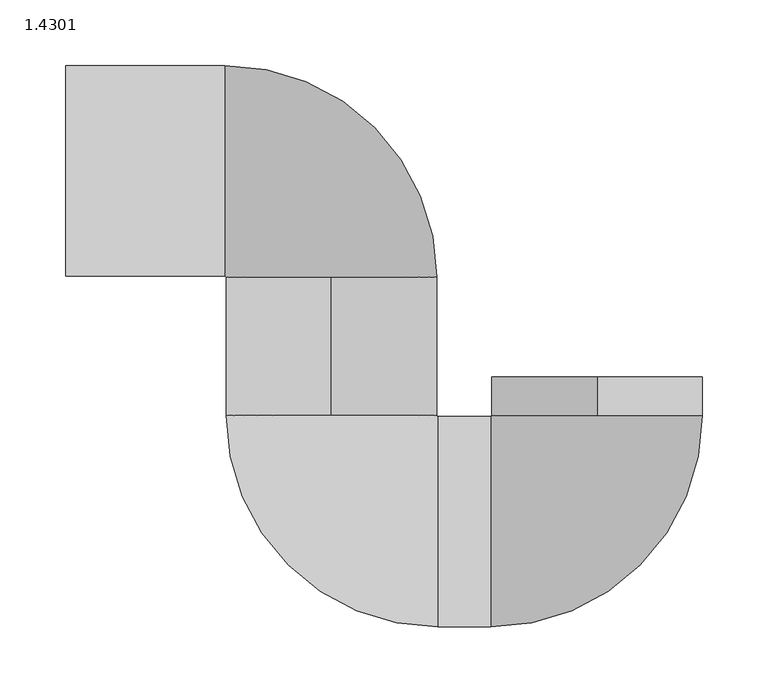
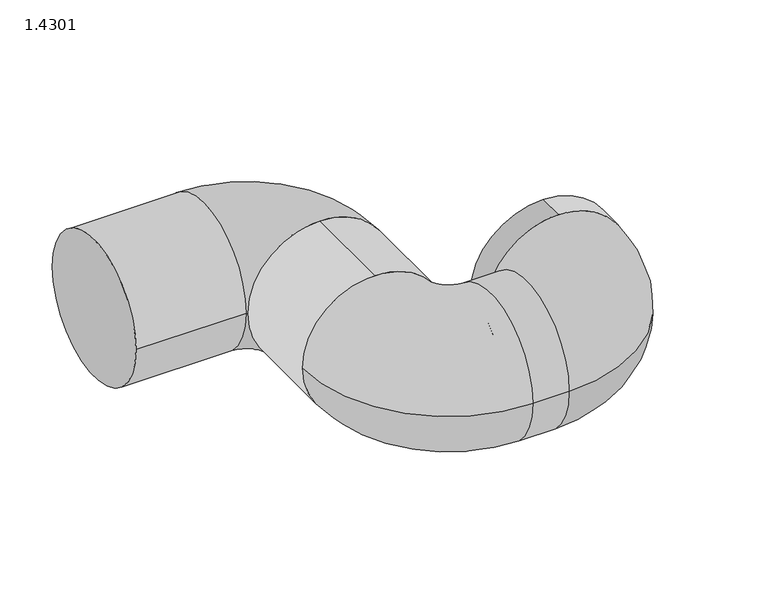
"""IFC4 building model written with IfcOpenShell, lengths in millimetres: pipe fitting geometry, PIF_ST_UN_ACO pipe p-trap_ACO : 1.4301."""

from ifc_helpers import new_model, si_unit, point, frame, origin, place, context, project, spatial, circle_curve, ellipse_curve, trimmed, source, transform, mapped, element, save
from ifc_brep_helpers import plane_surface, cylinder_surface, revolved_surface, advanced_brep


def pipe_fitting_1_4301_4e6f8dee(model_context):
    return source(origin(), model_context, "Body", "AdvancedBrep", [
        advanced_brep(
        [(-282.0, -186.0, 0.0), (-121.0, -347.0, 0.0), (-121.0, -267.0, 80.0), (-121.0, -187.0, 0.0), (-122.0, -186.0, 0.0), (-202.0, -186.0, 80.0), (-202.0, -186.0, -80.0), (-121.0, -267.0, -80.0), (-81.0, -347.0, 0.0), (-81.0, -187.0, 0.0), (-404.0, -80.0, 0.0), (-404.0, 80.0, 0.0), (-283.0, 80.0, 0.0), (-283.0, -80.0, 0.0), (-122.0, -81.0, 0.0), (-282.0, -81.0, 0.0), (-202.0, -81.0, 80.0), (-202.0, -81.0, -80.0), (0.0, -157.0, -80.0), (0.0, -157.0, 80.0), (0.0, -186.0, -80.0), (-80.0, -186.0, 0.0), (0.0, -186.0, 80.0), (80.0, -186.0, 0.0)],
        [
            (0, 1, circle_curve(frame((-121.0, -186.0, 0.0), z_axis=(0.0, 0.0, 1.0), x_axis=(0.0, -1.0, 0.0)), 161.0)),
            (1, 2, circle_curve(frame((-121.0, -267.0, 0.0), z_axis=(-1.0, 0.0, 0.0), x_axis=(0.0, -1.0, 0.0)), 80.0)),
            (2, 3, circle_curve(frame((-121.0, -267.0, 0.0), z_axis=(-1.0, 0.0, 0.0), x_axis=(0.0, -1.0, 0.0)), 80.0)),
            (3, 4, circle_curve(frame((-121.0, -186.0, 0.0), z_axis=(0.0, 0.0, -1.0), x_axis=(0.0, -1.0, 0.0)), 1.0)),
            (4, 5, circle_curve(frame((-202.0, -186.0, 0.0), z_axis=(0.0, -1.0, 0.0), x_axis=(-1.0, 0.0, 0.0)), 80.0)),
            (5, 0, circle_curve(frame((-202.0, -186.0, 0.0), z_axis=(0.0, -1.0, 0.0), x_axis=(-1.0, 0.0, 0.0)), 80.0)),
            (0, 6, circle_curve(frame((-202.0, -186.0, 0.0), z_axis=(0.0, -1.0, 0.0), x_axis=(-1.0, 0.0, 0.0)), 80.0)),
            (6, 4, circle_curve(frame((-202.0, -186.0, 0.0), z_axis=(0.0, -1.0, 0.0), x_axis=(-1.0, 0.0, 0.0)), 80.0)),
            (3, 7, circle_curve(frame((-121.0, -267.0, 0.0), z_axis=(-1.0, 0.0, 0.0), x_axis=(0.0, -1.0, 0.0)), 80.0)),
            (7, 1, circle_curve(frame((-121.0, -267.0, 0.0), z_axis=(-1.0, 0.0, 0.0), x_axis=(0.0, -1.0, 0.0)), 80.0)),
            (8, 1),
            (3, 9),
            (9, 8, circle_curve(frame((-81.0, -267.0, 0.0), z_axis=(-1.0, 0.0, 0.0), x_axis=(0.0, 1.0, 0.0)), 80.0)),
            (8, 9, circle_curve(frame((-81.0, -267.0, 0.0), z_axis=(-1.0, 0.0, 0.0), x_axis=(0.0, 1.0, 0.0)), 80.0)),
            (10, 11, circle_curve(frame((-404.0, 0.0, 0.0), z_axis=(-1.0, 0.0, 0.0), x_axis=(0.0, 1.0, 0.0)), 80.0)),
            (11, 10, circle_curve(frame((-404.0, 0.0, 0.0), z_axis=(-1.0, 0.0, 0.0), x_axis=(0.0, 1.0, 0.0)), 80.0)),
            (11, 12),
            (12, 13, circle_curve(frame((-283.0, 0.0, 0.0), z_axis=(-1.0, 0.0, 0.0), x_axis=(0.0, 1.0, 0.0)), 80.0)),
            (13, 10),
            (13, 12, circle_curve(frame((-283.0, 0.0, 0.0), z_axis=(-1.0, 0.0, 0.0), x_axis=(0.0, 1.0, 0.0)), 80.0)),
            (14, 12, circle_curve(frame((-283.0, -81.0, 0.0), z_axis=(0.0, 0.0, 1.0), x_axis=(0.0, 1.0, 0.0)), 161.0)),
            (13, 15, circle_curve(frame((-283.0, -81.0, 0.0), z_axis=(0.0, 0.0, -1.0), x_axis=(0.0, 1.0, 0.0)), 1.0)),
            (15, 16, circle_curve(frame((-202.0, -81.0, 0.0), z_axis=(0.0, 1.0, 0.0), x_axis=(1.0, 0.0, 0.0)), 80.0)),
            (16, 14, circle_curve(frame((-202.0, -81.0, 0.0), z_axis=(0.0, 1.0, 0.0), x_axis=(1.0, 0.0, 0.0)), 80.0)),
            (14, 17, circle_curve(frame((-202.0, -81.0, 0.0), z_axis=(0.0, 1.0, 0.0), x_axis=(1.0, 0.0, 0.0)), 80.0)),
            (17, 15, circle_curve(frame((-202.0, -81.0, 0.0), z_axis=(0.0, 1.0, 0.0), x_axis=(1.0, 0.0, 0.0)), 80.0)),
            (6, 17),
            (16, 5),
            (18, 19, circle_curve(frame((0.0, -157.0, 0.0), z_axis=(0.0, 1.0, 0.0), x_axis=(0.0, 0.0, 1.0)), 80.0)),
            (19, 18, circle_curve(frame((0.0, -157.0, 0.0), z_axis=(0.0, 1.0, 0.0), x_axis=(0.0, 0.0, 1.0)), 80.0)),
            (18, 20),
            (20, 21, circle_curve(frame((0.0, -186.0, 0.0), z_axis=(0.0, 1.0, 0.0), x_axis=(0.0, 0.0, 1.0)), 80.0)),
            (21, 22, circle_curve(frame((0.0, -186.0, 0.0), z_axis=(0.0, 1.0, 0.0), x_axis=(0.0, 0.0, 1.0)), 80.0)),
            (22, 19),
            (22, 23, circle_curve(frame((0.0, -186.0, 0.0), z_axis=(0.0, 1.0, 0.0), x_axis=(0.0, 0.0, 1.0)), 80.0)),
            (23, 20, circle_curve(frame((0.0, -186.0, 0.0), z_axis=(0.0, 1.0, 0.0), x_axis=(0.0, 0.0, 1.0)), 80.0)),
            (21, 9, circle_curve(frame((-81.0, -186.0, 0.0), z_axis=(0.0, 0.0, -1.0), x_axis=(0.0, -1.0, 0.0)), 1.0)),
            (8, 23, circle_curve(frame((-81.0, -186.0, 0.0), z_axis=(0.0, 0.0, 1.0), x_axis=(0.0, -1.0, 0.0)), 161.0)),
        ],
        [
            revolved_surface(trimmed(ellipse_curve(frame((-121.0, -267.0, 0.0), z_axis=(1.0, 0.0, 0.0), x_axis=(0.0, -1.0, 0.0)), 80.0, 80.0), [point((-121.0, -187.0, 0.0))], [point((-121.0, -347.0, 0.0))], True, "CARTESIAN"), (-121.0, -186.0, 0.0), (0.0, 0.0, -1.0)),
            revolved_surface(trimmed(ellipse_curve(frame((-121.0, -267.0, 0.0), z_axis=(1.0, 0.0, 0.0), x_axis=(0.0, -1.0, 0.0)), 80.0, 80.0), [point((-121.0, -347.0, 0.0))], [point((-121.0, -187.0, 0.0))], True, "CARTESIAN"), (-121.0, -186.0, 0.0), (0.0, 0.0, -1.0)),
            cylinder_surface(frame((-121.0, -267.0, 0.0), z_axis=(1.0, 0.0, 0.0), x_axis=(0.0, 1.0, 0.0)), 80.0),
            plane_surface(frame((-404.0, 80.0, 0.0), z_axis=(-1.0, 0.0, 0.0), x_axis=(0.0, 0.0, -1.0))),
            cylinder_surface(frame((-404.0, 0.0, 0.0), z_axis=(1.0, 0.0, 0.0), x_axis=(0.0, 1.0, 0.0)), 80.0),
            revolved_surface(trimmed(ellipse_curve(frame((-283.0, 0.0, 0.0), z_axis=(-1.0, 0.0, 0.0), x_axis=(0.0, 1.0, 0.0)), 80.0, 80.0), [point((-283.0, -80.0, 0.0))], [point((-283.0, 80.0, 0.0))], True, "CARTESIAN"), (-283.0, -81.0, 0.0), (0.0, 0.0, -1.0)),
            revolved_surface(trimmed(ellipse_curve(frame((-283.0, 0.0, 0.0), z_axis=(-1.0, 0.0, 0.0), x_axis=(0.0, 1.0, 0.0)), 80.0, 80.0), [point((-283.0, 80.0, 0.0))], [point((-283.0, -80.0, 0.0))], True, "CARTESIAN"), (-283.0, -81.0, 0.0), (0.0, 0.0, -1.0)),
            cylinder_surface(frame((-202.0, -81.0, 0.0), z_axis=(0.0, -1.0, 0.0), x_axis=(0.0, 0.0, 1.0)), 80.0),
            plane_surface(frame((0.0, -157.0, 80.0), z_axis=(0.0, 1.0, 0.0), x_axis=(1.0, 0.0, 0.0))),
            cylinder_surface(frame((0.0, -186.0, 0.0), z_axis=(0.0, 1.0, 0.0), x_axis=(0.0, 0.0, 1.0)), 80.0),
            revolved_surface(trimmed(ellipse_curve(frame((-81.0, -267.0, 0.0), z_axis=(-1.0, 0.0, 0.0), x_axis=(0.0, 1.0, 0.0)), 80.0, 80.0), [point((-81.0, -347.0, 0.0))], [point((-81.0, -187.0, 0.0))], True, "CARTESIAN"), (-81.0, -186.0, 0.0), (0.0, 0.0, 1.0)),
            revolved_surface(trimmed(ellipse_curve(frame((-81.0, -267.0, 0.0), z_axis=(-1.0, 0.0, 0.0), x_axis=(0.0, 1.0, 0.0)), 80.0, 80.0), [point((-81.0, -187.0, 0.0))], [point((-81.0, -347.0, 0.0))], True, "CARTESIAN"), (-81.0, -186.0, 0.0), (0.0, 0.0, 1.0)),
        ],
        [
            (0, [[1, 2, 3, 4, 5, 6]]),
            (1, [[-1, 7, 8, -4, 9, 10]]),
            (2, [[11, -10, -9, 12, 13]]),
            (2, [[-11, 14, -12, -3, -2]]),
            (3, [[15, 16]]),
            (4, [[-16, 17, 18, 19]]),
            (4, [[-15, -19, 20, -17]]),
            (5, [[21, -20, 22, 23, 24]]),
            (6, [[-21, 25, 26, -22, -18]]),
            (7, [[27, -25, -24, 28, -5, -8]]),
            (7, [[-27, -7, -6, -28, -23, -26]]),
            (8, [[29, 30]]),
            (9, [[-29, 31, 32, 33, 34]]),
            (9, [[-30, -34, 35, 36, -31]]),
            (10, [[37, -14, 38, -35, -33]]),
            (11, [[-37, -32, -36, -38, -13]]),
        ],
    ),
    ])


if __name__ == "__main__":
    model = new_model("IFC4")
    model_context = context("Model", 3, world=origin())
    ifc_project = project(units=[si_unit("LENGTHUNIT", "METRE", prefix="MILLI")], contexts=[model_context])
    site = spatial("IfcSite", under=ifc_project)
    building = spatial("IfcBuilding", under=site)
    placement = place(None, origin())
    pipe_fitting_1_4301_shape = pipe_fitting_1_4301_4e6f8dee(model_context)
    element("IfcPipeFitting", 1, ObjectType="PIF_ST_UN_ACO pipe p-trap_ACO : 1.4301", at=placement, inside=building, context=model_context, shape_type="MappedRepresentation", body=[
        mapped(pipe_fitting_1_4301_shape, transform((0.0, 0.0, 0.0), x_axis=(1.0, 0.0, 0.0), y_axis=(0.0, 1.0, 0.0), z_axis=(0.0, 0.0, 1.0))),
    ])
    save(model, "model.ifc")
